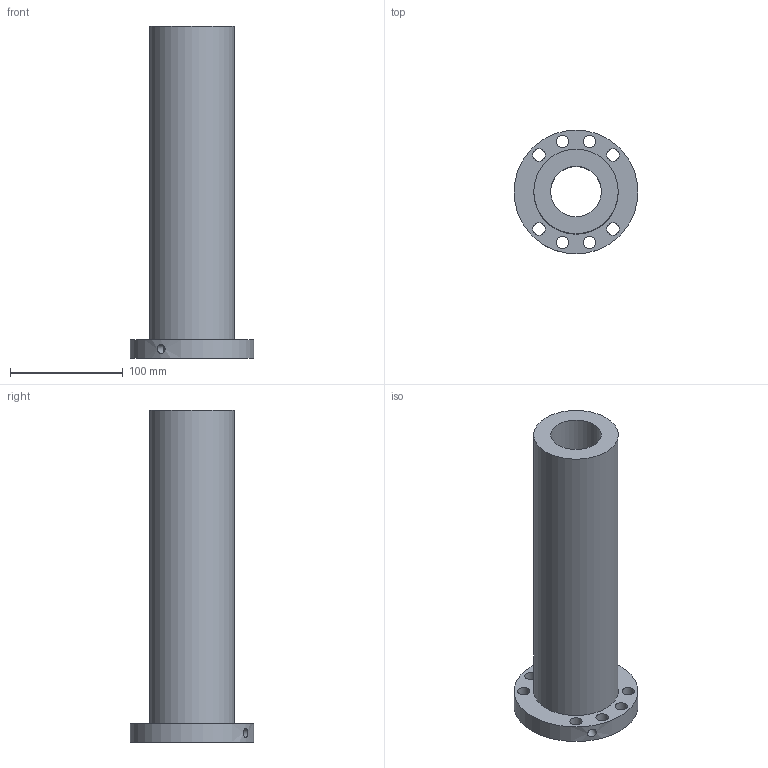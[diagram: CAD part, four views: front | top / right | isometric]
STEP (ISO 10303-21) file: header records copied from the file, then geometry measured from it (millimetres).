
FILE_DESCRIPTION(/* description */ (''),/* implementation_level */ '2;1');
FILE_NAME(/* name */ '45-40K3_635',/* time_stamp */ '2007-10-15T12:53:55+08:00',/* author */ (''),/* organization */ (''),/* preprocessor_version */ 'ST-DEVELOPER v11',/* originating_system */ 'UGS - NX 5.0',/* authorisation */ '');
FILE_SCHEMA (('CONFIG_CONTROL_DESIGN'));
Length unit declared in the file: millimetre
Products named in the file (1): 45-40K3_635
Bounding box: 110 x 110 x 295 mm (x, y, z)
Volume: 902158 mm3; surface area: 132319.2 mm2
Topology: 1 solids, 1 shells, 17 faces, 40 edges, 27 vertices
Faces by surface type: cylinder 13, plane 4
Full cylindrical faces by diameter (mm): 6 x1, 8 x1, 11 x8, 45 x1, 75 x1, 110 x1
Entity records: 668 total; most frequent: CARTESIAN_POINT 184, DIRECTION 84, FACE_BOUND 52, EDGE_LOOP 52, ORIENTED_EDGE 52, AXIS2_PLACEMENT_3D 42, VERTEX_POINT 26, EDGE_CURVE 26
